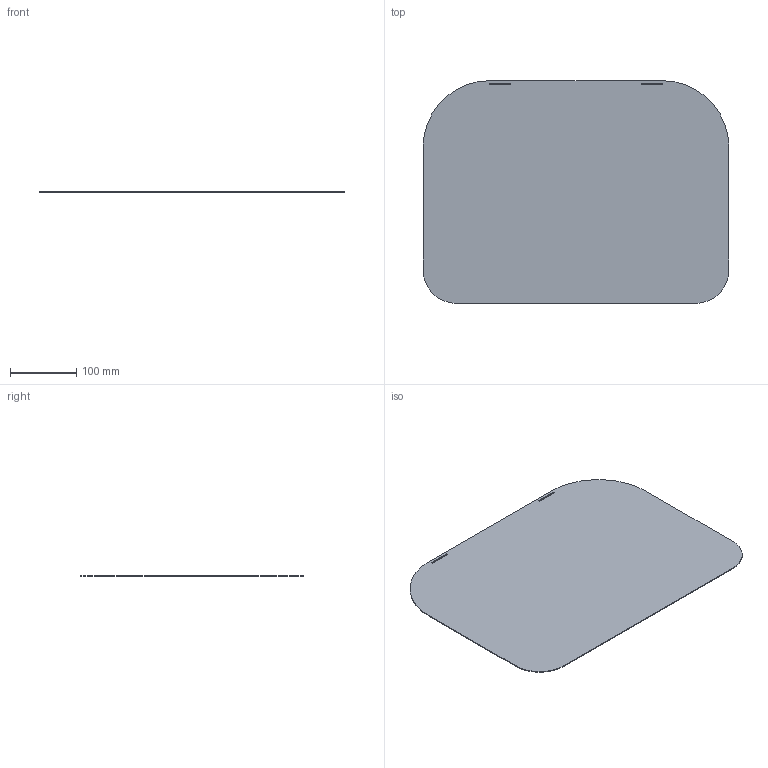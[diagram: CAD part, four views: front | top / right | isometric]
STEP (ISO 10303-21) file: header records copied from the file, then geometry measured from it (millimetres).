
FILE_DESCRIPTION (( 'STEP AP214' ), '1' );
FILE_NAME ('NIK_100.STEP', '2021-11-29T08:42:13', ( '' ), ( '' ), 'SwSTEP 2.0', 'SolidWorks 2019', '' );
FILE_SCHEMA (( 'AUTOMOTIVE_DESIGN' ));
Length unit declared in the file: millimetre
Products named in the file (1): NIK_100
Bounding box: 460 x 334.89 x 1.2 mm (x, y, z)
Volume: 178231 mm3; surface area: 298970.4 mm2
Topology: 1 solids, 1 shells, 18 faces, 48 edges, 32 vertices
Faces by surface type: plane 14, cylinder 4
Entity records: 602 total; most frequent: CARTESIAN_POINT 99, ORIENTED_EDGE 96, DIRECTION 94, EDGE_CURVE 48, VECTOR 40, LINE 40, VERTEX_POINT 32, AXIS2_PLACEMENT_3D 27
